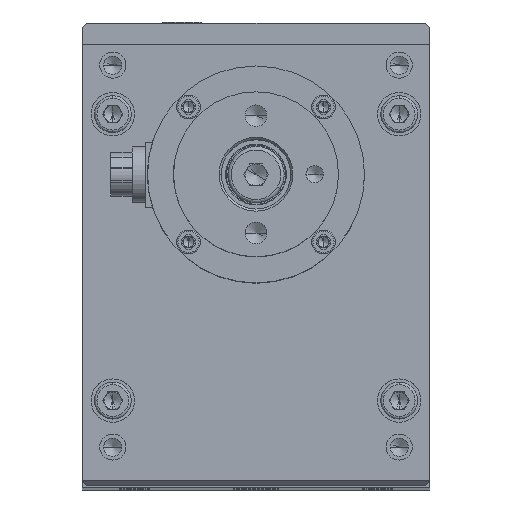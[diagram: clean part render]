
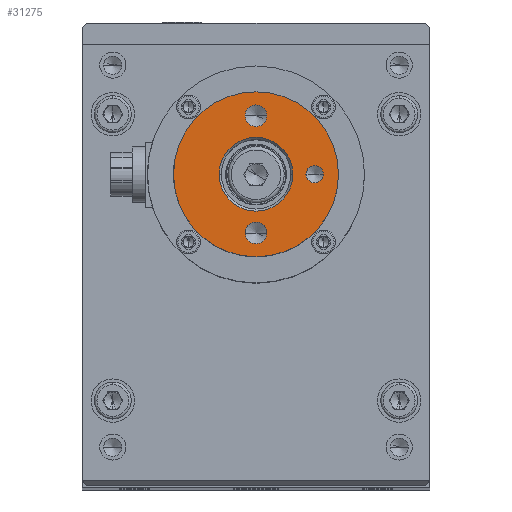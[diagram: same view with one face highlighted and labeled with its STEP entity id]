
A CAD part, top view. The second image highlights one B-rep face of the part: STEP entity #31275.
In plain terms, the highlighted planar face has unit normal (0, 0, 1).
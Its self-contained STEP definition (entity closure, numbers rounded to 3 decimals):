
#420 = CARTESIAN_POINT ( 'NONE',  ( 56.221, 94.916, 380.526 ) ) ;
#460 = AXIS2_PLACEMENT_3D ( 'NONE', #14904, #24747, #19754 ) ;
#643 = VERTEX_POINT ( 'NONE', #2554 ) ;
#1296 = AXIS2_PLACEMENT_3D ( 'NONE', #12574, #30002, #10352 ) ;
#1354 = AXIS2_PLACEMENT_3D ( 'NONE', #2013, #4322, #9506 ) ;
#1829 = CARTESIAN_POINT ( 'NONE',  ( 58.721, 108.416, 380.526 ) ) ;
#1839 = CARTESIAN_POINT ( 'NONE',  ( 67.721, 94.916, 380.526 ) ) ;
#2013 = CARTESIAN_POINT ( 'NONE',  ( 56.221, 108.416, 380.526 ) ) ;
#2071 = EDGE_LOOP ( 'NONE', ( #12571, #3478 ) ) ;
#2496 = EDGE_CURVE ( 'NONE', #30325, #30004, #2533, .T. ) ;
#2533 = CIRCLE ( 'NONE', #20514, 2. ) ;
#2554 = CARTESIAN_POINT ( 'NONE',  ( 75.221, 94.916, 380.526 ) ) ;
#3478 = ORIENTED_EDGE ( 'NONE', *, *, #15803, .T. ) ;
#3482 = AXIS2_PLACEMENT_3D ( 'NONE', #28897, #24282, #5176 ) ;
#3560 = DIRECTION ( 'NONE',  ( -1., 0., 0. ) ) ;
#3591 = EDGE_CURVE ( 'NONE', #13547, #28194, #14309, .T. ) ;
#3609 = CIRCLE ( 'NONE', #1354, 2.5 ) ;
#3810 = FACE_BOUND ( 'NONE', #16062, .T. ) ;
#3886 = DIRECTION ( 'NONE',  ( -1., 0., 0. ) ) ;
#3963 = EDGE_CURVE ( 'NONE', #28194, #13547, #3609, .T. ) ;
#4322 = DIRECTION ( 'NONE',  ( 0., 0., 1. ) ) ;
#4635 = CARTESIAN_POINT ( 'NONE',  ( 58.721, 81.416, 380.526 ) ) ;
#4847 = VERTEX_POINT ( 'NONE', #7382 ) ;
#4939 = AXIS2_PLACEMENT_3D ( 'NONE', #29404, #29084, #16604 ) ;
#5078 = ORIENTED_EDGE ( 'NONE', *, *, #30931, .F. ) ;
#5176 = DIRECTION ( 'NONE',  ( -1., 0., 0. ) ) ;
#7244 = EDGE_LOOP ( 'NONE', ( #22258, #7534 ) ) ;
#7382 = CARTESIAN_POINT ( 'NONE',  ( 47.721, 94.916, 380.526 ) ) ;
#7534 = ORIENTED_EDGE ( 'NONE', *, *, #15062, .F. ) ;
#7653 = DIRECTION ( 'NONE',  ( 0., 0., -1. ) ) ;
#7810 = DIRECTION ( 'NONE',  ( 0., 0., -1. ) ) ;
#7886 = VERTEX_POINT ( 'NONE', #32324 ) ;
#7952 = CIRCLE ( 'NONE', #16559, 8.5 ) ;
#8156 = CIRCLE ( 'NONE', #460, 8.5 ) ;
#8221 = CIRCLE ( 'NONE', #20411, 19. ) ;
#8275 = FACE_BOUND ( 'NONE', #2071, .T. ) ;
#8386 = ORIENTED_EDGE ( 'NONE', *, *, #18369, .F. ) ;
#9506 = DIRECTION ( 'NONE',  ( -1., 0., 0. ) ) ;
#9855 = CARTESIAN_POINT ( 'NONE',  ( 71.721, 94.916, 380.526 ) ) ;
#10352 = DIRECTION ( 'NONE',  ( -1., 0., 0. ) ) ;
#10918 = DIRECTION ( 'NONE',  ( 0., 0., 1. ) ) ;
#11546 = DIRECTION ( 'NONE',  ( 1., 0., 0. ) ) ;
#11612 = AXIS2_PLACEMENT_3D ( 'NONE', #21381, #10918, #31225 ) ;
#12045 = CARTESIAN_POINT ( 'NONE',  ( 64.721, 94.916, 380.526 ) ) ;
#12461 = PLANE ( 'NONE',  #1296 ) ;
#12571 = ORIENTED_EDGE ( 'NONE', *, *, #20474, .T. ) ;
#12574 = CARTESIAN_POINT ( 'NONE',  ( 64.221, 94.916, 380.526 ) ) ;
#12598 = CARTESIAN_POINT ( 'NONE',  ( 56.221, 94.916, 380.526 ) ) ;
#12776 = CIRCLE ( 'NONE', #3482, 2.5 ) ;
#13243 = EDGE_CURVE ( 'NONE', #643, #22413, #25317, .T. ) ;
#13371 = FACE_OUTER_BOUND ( 'NONE', #28398, .T. ) ;
#13547 = VERTEX_POINT ( 'NONE', #1829 ) ;
#13840 = ORIENTED_EDGE ( 'NONE', *, *, #25226, .F. ) ;
#14154 = CARTESIAN_POINT ( 'NONE',  ( 56.221, 108.416, 380.526 ) ) ;
#14309 = CIRCLE ( 'NONE', #26605, 2.5 ) ;
#14904 = CARTESIAN_POINT ( 'NONE',  ( 56.221, 94.916, 380.526 ) ) ;
#14916 = DIRECTION ( 'NONE',  ( -1., 0., 0. ) ) ;
#15062 = EDGE_CURVE ( 'NONE', #30004, #30325, #26754, .T. ) ;
#15416 = DIRECTION ( 'NONE',  ( 1., 0., 0. ) ) ;
#15803 = EDGE_CURVE ( 'NONE', #24046, #4847, #7952, .T. ) ;
#16062 = EDGE_LOOP ( 'NONE', ( #27106, #28048 ) ) ;
#16219 = DIRECTION ( 'NONE',  ( 0., 0., 1. ) ) ;
#16559 = AXIS2_PLACEMENT_3D ( 'NONE', #12598, #7653, #14916 ) ;
#16604 = DIRECTION ( 'NONE',  ( -1., 0., 0. ) ) ;
#17959 = AXIS2_PLACEMENT_3D ( 'NONE', #420, #7810, #15416 ) ;
#18369 = EDGE_CURVE ( 'NONE', #22413, #643, #8221, .T. ) ;
#18540 = CARTESIAN_POINT ( 'NONE',  ( 69.721, 94.916, 380.526 ) ) ;
#19732 = ORIENTED_EDGE ( 'NONE', *, *, #13243, .F. ) ;
#19754 = DIRECTION ( 'NONE',  ( -1., 0., 0. ) ) ;
#19827 = FACE_BOUND ( 'NONE', #26780, .T. ) ;
#20411 = AXIS2_PLACEMENT_3D ( 'NONE', #24585, #26555, #11546 ) ;
#20474 = EDGE_CURVE ( 'NONE', #4847, #24046, #8156, .T. ) ;
#20514 = AXIS2_PLACEMENT_3D ( 'NONE', #18540, #16219, #3560 ) ;
#21381 = CARTESIAN_POINT ( 'NONE',  ( 56.221, 81.416, 380.526 ) ) ;
#21936 = CARTESIAN_POINT ( 'NONE',  ( 53.721, 108.416, 380.526 ) ) ;
#22258 = ORIENTED_EDGE ( 'NONE', *, *, #2496, .F. ) ;
#22413 = VERTEX_POINT ( 'NONE', #31719 ) ;
#24046 = VERTEX_POINT ( 'NONE', #12045 ) ;
#24282 = DIRECTION ( 'NONE',  ( 0., 0., 1. ) ) ;
#24585 = CARTESIAN_POINT ( 'NONE',  ( 56.221, 94.916, 380.526 ) ) ;
#24747 = DIRECTION ( 'NONE',  ( 0., 0., -1. ) ) ;
#25058 = FACE_BOUND ( 'NONE', #7244, .T. ) ;
#25226 = EDGE_CURVE ( 'NONE', #26750, #7886, #12776, .T. ) ;
#25317 = CIRCLE ( 'NONE', #17959, 19. ) ;
#26555 = DIRECTION ( 'NONE',  ( 0., 0., -1. ) ) ;
#26605 = AXIS2_PLACEMENT_3D ( 'NONE', #14154, #28828, #3886 ) ;
#26750 = VERTEX_POINT ( 'NONE', #4635 ) ;
#26754 = CIRCLE ( 'NONE', #4939, 2. ) ;
#26780 = EDGE_LOOP ( 'NONE', ( #5078, #13840 ) ) ;
#27106 = ORIENTED_EDGE ( 'NONE', *, *, #3963, .F. ) ;
#28048 = ORIENTED_EDGE ( 'NONE', *, *, #3591, .F. ) ;
#28080 = CIRCLE ( 'NONE', #11612, 2.5 ) ;
#28194 = VERTEX_POINT ( 'NONE', #21936 ) ;
#28398 = EDGE_LOOP ( 'NONE', ( #19732, #8386 ) ) ;
#28828 = DIRECTION ( 'NONE',  ( 0., 0., 1. ) ) ;
#28897 = CARTESIAN_POINT ( 'NONE',  ( 56.221, 81.416, 380.526 ) ) ;
#29084 = DIRECTION ( 'NONE',  ( 0., 0., 1. ) ) ;
#29404 = CARTESIAN_POINT ( 'NONE',  ( 69.721, 94.916, 380.526 ) ) ;
#30002 = DIRECTION ( 'NONE',  ( 0., 0., 1. ) ) ;
#30004 = VERTEX_POINT ( 'NONE', #9855 ) ;
#30325 = VERTEX_POINT ( 'NONE', #1839 ) ;
#30931 = EDGE_CURVE ( 'NONE', #7886, #26750, #28080, .T. ) ;
#31225 = DIRECTION ( 'NONE',  ( -1., 0., 0. ) ) ;
#31275 = ADVANCED_FACE ( 'NONE', ( #25058, #3810, #19827, #8275, #13371 ), #12461, .T. ) ;
#31719 = CARTESIAN_POINT ( 'NONE',  ( 37.221, 94.916, 380.526 ) ) ;
#32324 = CARTESIAN_POINT ( 'NONE',  ( 53.721, 81.416, 380.526 ) ) ;
